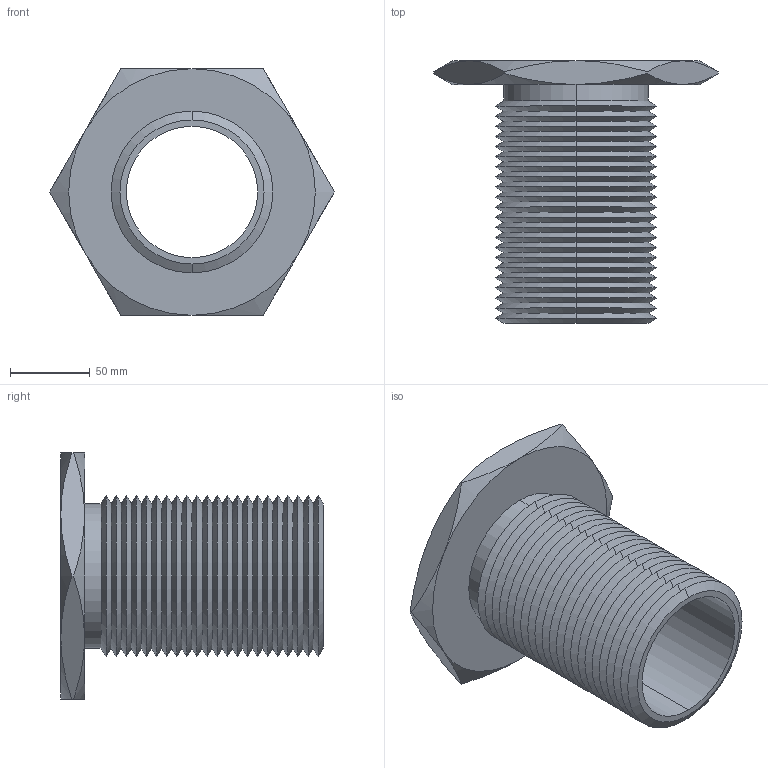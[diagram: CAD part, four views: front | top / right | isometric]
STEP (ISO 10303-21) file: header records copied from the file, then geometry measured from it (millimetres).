
FILE_DESCRIPTION (( 'STEP AP203' ), '1' );
FILE_NAME ('63302.W5400_3,25 UNC-4.step', '2013-12-08T12:05:16', ( 'User' ), ( '' ), 'SwSTEP 2.0', 'SolidWorks 2009', '' );
FILE_SCHEMA (( 'CONFIG_CONTROL_DESIGN' ));
Length unit declared in the file: millimetre
Products named in the file (1): 63302.W5400_3,25 UNC-4
Bounding box: 178.98 x 165 x 155 mm (x, y, z)
Volume: 496231.9 mm3; surface area: 166175.9 mm2
Topology: 1 solids, 1 shells, 115 faces, 234 edges, 122 vertices
Faces by surface type: cone 102, plane 9, cylinder 4
Entity records: 3179 total; most frequent: CARTESIAN_POINT 696, DIRECTION 552, ORIENTED_EDGE 468, EDGE_CURVE 234, AXIS2_PLACEMENT_3D 226, VERTEX_POINT 122, EDGE_LOOP 118, ADVANCED_FACE 115
